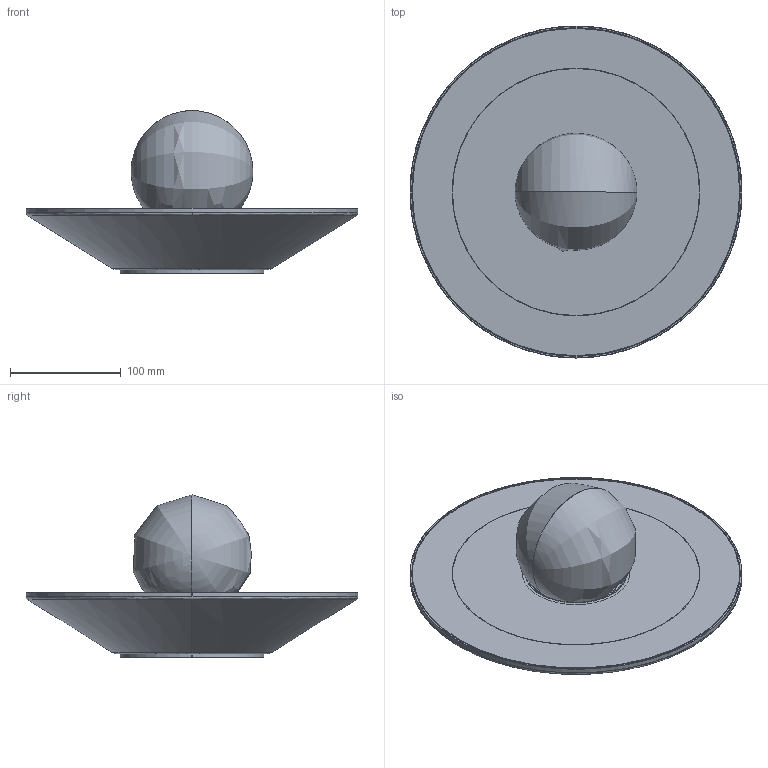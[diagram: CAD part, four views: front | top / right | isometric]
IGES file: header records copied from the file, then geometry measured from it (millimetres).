
Start section: SolidWorks IGES file using analytic representation for surfaces
Global section: file name: \\192.168.0.53\Reserch Development\SITO WEB\2024\File 2D 3D\Prodotti\Caricamenti\Cartelle non compresse\Caleide Eos\De Castelli-3D-Caleide Eos 30.IGS; native system: SolidWorks 2025; preprocessor: SolidWorks 2025; author: lauraa; date: 260514.092814; units: millimetre
Bounding box: 300 x 300 x 146.82 mm (x, y, z)
Surface area: 348699.6 mm2 (no closed solid volume)
Topology: 0 solids, 0 shells, 182 faces, 3773 edges, 3772 vertices
Faces by surface type: bspline 94, revolution 88
